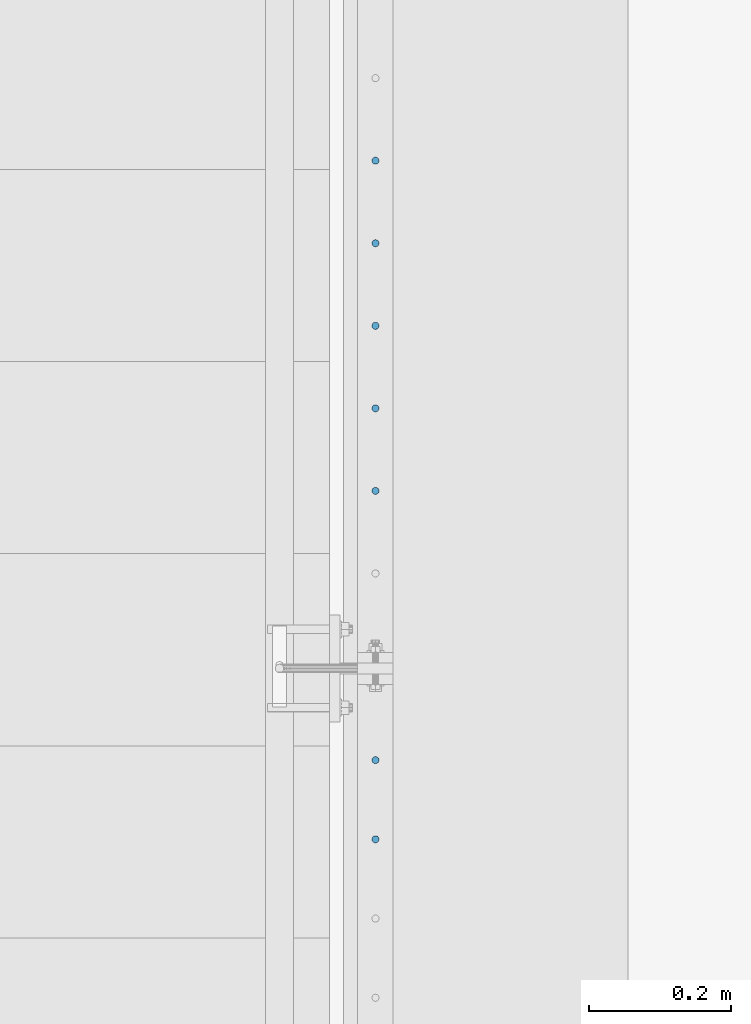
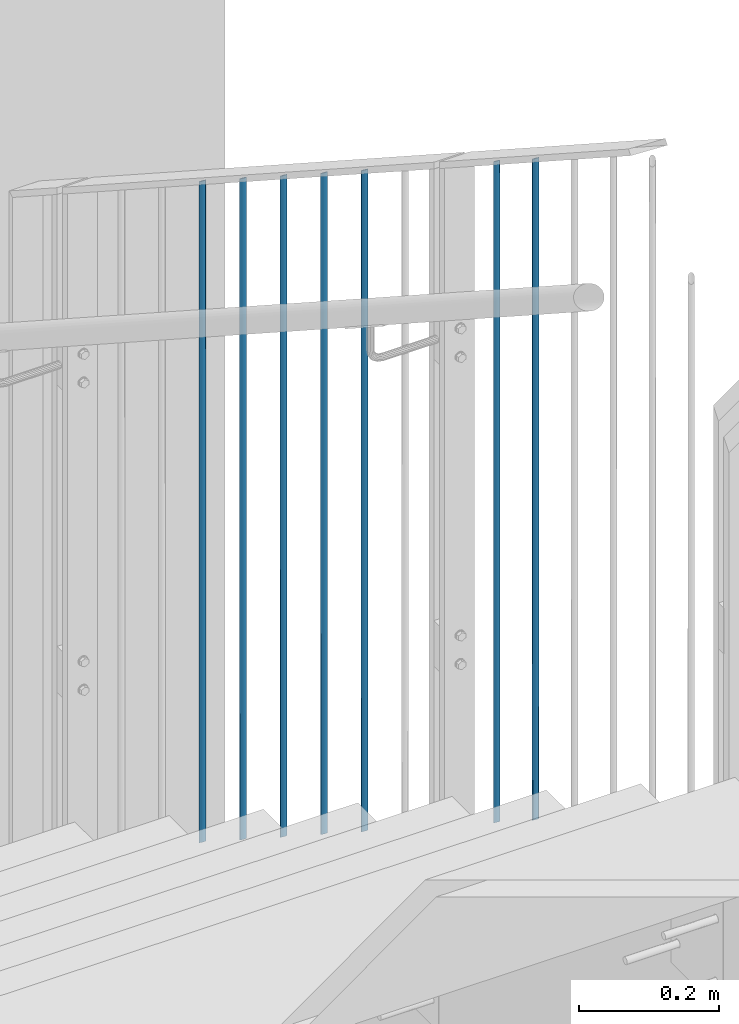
# One storey, part 45 of 296: 7 columns.
"""IFC2X3 building model written with IfcOpenShell, lengths in millimetres."""

from ifc_helpers import new_model, entity, si_unit, converted_unit, frame, origin, origin_with_axes, origin_2d, place, context, project, spatial, circle, extrude, clip, halfspace, material, element, save


model = new_model("IFC2X3")

# Units and contexts
model_context = context("Model", 3, precision=1e-09, world=origin_with_axes())
ifc_project = project(units=[si_unit("LENGTHUNIT", "METRE", prefix="MILLI"), si_unit("AREAUNIT", "SQUARE_METRE"), si_unit("VOLUMEUNIT", "CUBIC_METRE"), converted_unit("PLANEANGLEUNIT", "DEGREE", entity("IfcPlaneAngleMeasure", 0.01745329), si_unit("PLANEANGLEUNIT", "RADIAN"), dimensions=[0, 0, 0, 0, 0, 0, 0])], contexts=[model_context])

# Site, building, storey
site_placement = place(None, origin_with_axes())
site = spatial("IfcSite", under=ifc_project, at=site_placement, Name="TZD-S?d | Treppenhausgel?nder", CompositionType="ELEMENT")
building_placement = place(site_placement, origin_with_axes())
building = spatial("IfcBuilding", under=site, at=building_placement, Name="Struktur 1", CompositionType="ELEMENT")
storey_placement = place(building_placement, origin_with_axes())
storey = spatial("IfcBuildingStorey", under=building, at=storey_placement, Name="Default Storey", CompositionType="ELEMENT", Elevation=0.0)

# Columns
ifc_material = material(Name="S235JR")
column_1_placement = place(None, frame((5894.999, -1760.357143, 8574.638298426), z_axis=(0.0, 0.0, -1.0), x_axis=(0.0, 1.0, 0.0)))
element("IfcColumn", 1, at=column_1_placement, inside=storey, material=ifc_material, Name="-", ObjectType="-", context=model_context, shape_type="Clipping", body=[
    clip(clip(extrude(circle(Radius=5.0, at=origin_2d()), origin(), (0.0, 0.0, -1.0), 1184.934996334), halfspace(frame((5159.080610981, -5894.999, 3326.957963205), z_axis=(0.543608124, 0.0, -0.839339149), x_axis=(0.0, -1.0, 0.0)), True)), halfspace(frame((5686.607826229, -5894.999, 2512.447980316), z_axis=(-0.543608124, 0.0, 0.839339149), x_axis=(0.0, 1.0, 0.0)), True)),
])
column_2_placement = place(None, frame((5894.999, -1648.9285716, 8502.470240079), z_axis=(0.0, 0.0, -1.0), x_axis=(0.0, 1.0, 0.0)))
element("IfcColumn", 2, at=column_2_placement, inside=storey, material=ifc_material, Name="-", ObjectType="-", context=model_context, shape_type="Clipping", body=[
    clip(clip(extrude(circle(Radius=5.0, at=origin_2d()), origin(), (0.0, 0.0, -1.0), 1184.934996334), halfspace(frame((5575.179254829, -5894.999, 2440.279921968), z_axis=(-0.543608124, 0.0, 0.839339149), x_axis=(0.0, 1.0, 0.0)), True)), halfspace(frame((5047.652039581, -5894.999, 3254.789904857), z_axis=(0.543608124, 0.0, -0.839339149), x_axis=(0.0, -1.0, 0.0)), True)),
])
column_3_placement = place(None, frame((5894.999, -1270.2777778, 8257.23248609), z_axis=(0.0, 0.0, -1.0), x_axis=(0.0, 1.0, 0.0)))
element("IfcColumn", 3, at=column_3_placement, inside=storey, material=ifc_material, Name="-", ObjectType="-", context=model_context, shape_type="Clipping", body=[
    clip(clip(extrude(circle(Radius=5.0, at=origin_2d()), origin(), (0.0, 0.0, -1.0), 1184.934996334), halfspace(frame((4669.001245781, -5894.999, 3009.55215087), z_axis=(0.543608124, 0.0, -0.839339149), x_axis=(0.0, -1.0, 0.0)), True)), halfspace(frame((5196.528461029, -5894.999, 2195.04216798), z_axis=(-0.543608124, 0.0, 0.839339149), x_axis=(0.0, 1.0, 0.0)), True)),
])
column_4_placement = place(None, frame((5894.999, -1154.1666667, 8182.031724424), z_axis=(0.0, 0.0, -1.0), x_axis=(0.0, 1.0, 0.0)))
element("IfcColumn", 4, at=column_4_placement, inside=storey, material=ifc_material, Name="-", ObjectType="-", context=model_context, shape_type="Clipping", body=[
    clip(clip(extrude(circle(Radius=5.0, at=origin_2d()), origin(), (0.0, 0.0, -1.0), 1184.934996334), halfspace(frame((4552.890134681, -5894.999, 2934.351389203), z_axis=(0.543608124, 0.0, -0.839339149), x_axis=(0.0, -1.0, 0.0)), True)), halfspace(frame((5080.417349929, -5894.999, 2119.841406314), z_axis=(-0.543608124, 0.0, 0.839339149), x_axis=(0.0, 1.0, 0.0)), True)),
])
column_5_placement = place(None, frame((5894.999, -1038.0555556, 8106.830962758), z_axis=(0.0, 0.0, -1.0), x_axis=(0.0, 1.0, 0.0)))
element("IfcColumn", 5, at=column_5_placement, inside=storey, material=ifc_material, Name="-", ObjectType="-", context=model_context, shape_type="Clipping", body=[
    clip(clip(extrude(circle(Radius=5.0, at=origin_2d()), origin(), (0.0, 0.0, -1.0), 1184.934996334), halfspace(frame((4964.306238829, -5894.999, 2044.640644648), z_axis=(-0.543608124, 0.0, 0.839339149), x_axis=(0.0, 1.0, 0.0)), True)), halfspace(frame((4436.779023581, -5894.999, 2859.150627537), z_axis=(0.543608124, 0.0, -0.839339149), x_axis=(0.0, -1.0, 0.0)), True)),
])
column_6_placement = place(None, frame((5894.999, -921.9444445, 8031.630201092), z_axis=(0.0, 0.0, -1.0), x_axis=(0.0, 1.0, 0.0)))
element("IfcColumn", 6, at=column_6_placement, inside=storey, material=ifc_material, Name="-", ObjectType="-", context=model_context, shape_type="Clipping", body=[
    clip(clip(extrude(circle(Radius=5.0, at=origin_2d()), origin(), (0.0, 0.0, -1.0), 1184.934996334), halfspace(frame((4320.667912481, -5894.999, 2783.949865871), z_axis=(0.543608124, 0.0, -0.839339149), x_axis=(0.0, -1.0, 0.0)), True)), halfspace(frame((4848.195127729, -5894.999, 1969.439882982), z_axis=(-0.543608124, 0.0, 0.839339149), x_axis=(0.0, 1.0, 0.0)), True)),
])
column_7_placement = place(None, frame((5894.999, -805.8333334, 7956.429439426), z_axis=(0.0, 0.0, -1.0), x_axis=(0.0, 1.0, 0.0)))
element("IfcColumn", 7, at=column_7_placement, inside=storey, material=ifc_material, Name="-", ObjectType="-", context=model_context, shape_type="Clipping", body=[
    clip(clip(extrude(circle(Radius=5.0, at=origin_2d()), origin(), (0.0, 0.0, -1.0), 1184.934996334), halfspace(frame((4204.556801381, -5894.999, 2708.749104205), z_axis=(0.543608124, 0.0, -0.839339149), x_axis=(0.0, -1.0, 0.0)), True)), halfspace(frame((4732.084016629, -5894.999, 1894.239121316), z_axis=(-0.543608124, 0.0, 0.839339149), x_axis=(0.0, 1.0, 0.0)), True)),
])

save(model, "model.ifc")
